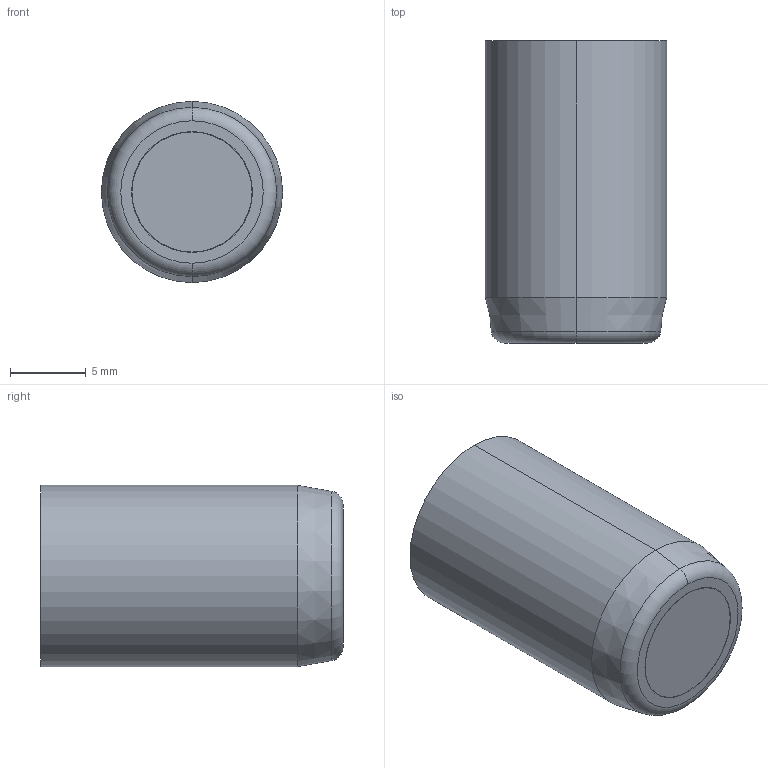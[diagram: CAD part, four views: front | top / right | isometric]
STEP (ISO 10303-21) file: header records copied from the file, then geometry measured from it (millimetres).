
FILE_DESCRIPTION (( 'STEP AP214' ), '1' );
FILE_NAME ('FA 126712-21STEP.STEP', '2020-08-11T10:24:44', ( '' ), ( '' ), 'SwSTEP 2.0', 'SolidWorks 2019', '' );
FILE_SCHEMA (( 'AUTOMOTIVE_DESIGN' ));
Length unit declared in the file: millimetre
Products named in the file (6): DFA 126700-2 comprimido; DIA 671714; DFA 126700-1; D9FA 126712; DFA 126700-3; FA 126712-21STEP
Assembly tree (5 placements, depth 2):
  FA 126712-21STEP
    D9FA 126712
    DFA 126700-1
    DIA 671714
    DFA 126700-3
    DFA 126700-2 comprimido
Bounding box: 12 x 20 x 12 mm (x, y, z)
Volume: 2014.5 mm3; surface area: 2187.7 mm2
Topology: 5 solids, 5 shells, 332 faces, 842 edges, 548 vertices
Faces by surface type: plane 150, cylinder 131, cone 24, bspline 13, torus 12, sphere 2
Entity records: 12128 total; most frequent: CARTESIAN_POINT 3685, DIRECTION 1750, ORIENTED_EDGE 1680, EDGE_CURVE 840, AXIS2_PLACEMENT_3D 641, VERTEX_POINT 548, VECTOR 468, LINE 468
